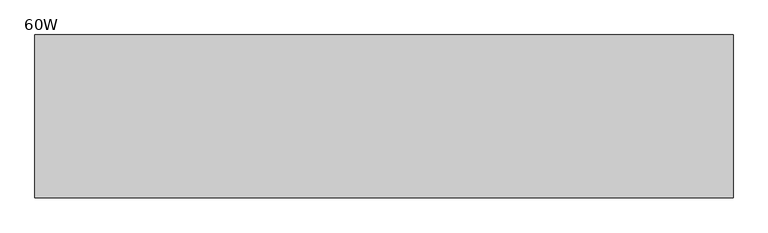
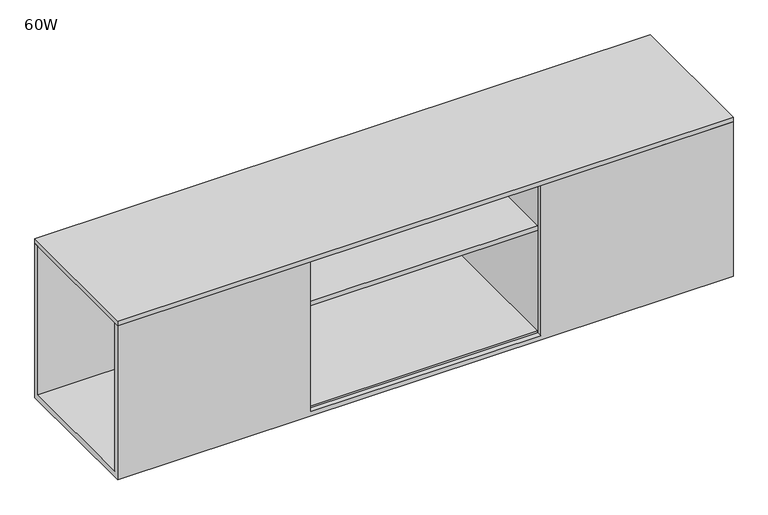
"""IFC4 building model written with IfcOpenShell, lengths in millimetres: furniture geometry, Steelcase Turnstone - Bivi - Storage - Trunk : 60W."""

from ifc_helpers import new_model, si_unit, frame, origin, place, context, project, spatial, polyline, circle_curve, outline, extrude, source, transform, mapped, element, save
from ifc_brep_helpers import plane_surface, revolved_surface, advanced_brep


def furniture_60w_d8397edf(model_context):
    return source(origin(), model_context, "Body", "SolidModel", [
        extrude(outline(polyline([(1524.0, 2.4129826), (1524.0, -353.1870174), (0.0, -353.1870174), (0.0, 2.4129826), (1524.0, 2.4129826)])), frame((0.0, 0.0, 710.1957493), z_axis=(0.0, 0.0, 1.0), x_axis=(1.0, 0.0, 0.0)), (0.0, 0.0, 1.0), 12.190317),
        extrude(outline(polyline([(476.3715042, -13.081), (1047.75, -13.081), (1047.75, -340.1059845), (476.3715042, -340.1059845), (476.3715042, -13.081)])), frame((0.0, 0.0, 585.109162), z_axis=(0.0, 0.0, 1.0), x_axis=(1.0, 0.0, 0.0)), (0.0, 0.0, 1.0), 11.4807673),
        extrude(outline(polyline([(476.3715042, -13.081), (476.3715042, -340.1059845), (452.5217972, -340.1059845), (452.5217972, -13.081), (476.3715042, -13.081)])), frame((0.0, 0.0, 317.5), z_axis=(0.0, 0.0, 1.0), x_axis=(1.0, 0.0, 0.0)), (0.0, 0.0, 1.0), 393.3189671),
        extrude(outline(polyline([(1071.599707, -13.081), (1071.599707, -340.1059845), (1047.75, -340.1059845), (1047.75, -13.081), (1071.599707, -13.081)])), frame((0.0, 0.0, 317.5), z_axis=(0.0, 0.0, 1.0), x_axis=(1.0, 0.0, 0.0)), (0.0, 0.0, 1.0), 393.3189671),
        advanced_brep(
        [(1524.0, 2.4129826, 710.8189671), (0.0, 2.4129826, 710.8189671), (0.0, -10.7950174, 710.8189671), (1524.0, -10.7950174, 710.8189671), (0.0, -353.1870174, 710.8189671), (476.3715042, -353.1870174, 710.8189671), (476.3715042, -340.1059845, 710.8189671), (0.0, -340.1059845, 710.8189671), (1047.75, -353.1870174, 710.8189671), (1524.0, -353.1870174, 710.8189671), (1524.0, -340.1059845, 710.8189671), (1047.75, -340.1059845, 710.8189671), (1524.0, 2.4129826, 306.4508803), (1524.0, -353.1870174, 306.4508803), (0.0, -353.1870174, 306.4508803), (0.0, 2.4129826, 306.4508803), (741.6414208, 2.4129826, 647.2628104), (782.4459185, 2.4129826, 647.2628104), (0.0, -340.1059845, 321.552397), (0.0, -10.7950174, 321.552397), (1047.75, -353.1870174, 317.5), (476.3715042, -353.1870174, 317.5), (1524.0, -10.7950174, 321.552397), (1524.0, -340.1059845, 321.552397), (476.3715042, -340.1059845, 317.5), (1047.75, -340.1059845, 317.5), (1047.75, -340.1059845, 321.552397), (476.3715042, -340.1059845, 321.552397), (741.6414208, -10.7950174, 647.2628104), (782.4459185, -10.7950174, 647.2628104)],
        [
            (0, 1),
            (1, 2),
            (2, 3),
            (3, 0),
            (4, 5),
            (5, 6),
            (6, 7),
            (7, 4),
            (8, 9),
            (9, 10),
            (10, 11),
            (11, 8),
            (12, 13),
            (13, 14),
            (14, 15),
            (15, 12),
            (0, 12),
            (15, 1),
            (16, 17, circle_curve(frame((762.0436697, 2.4129826, 647.2628104), z_axis=(0.0, -1.0, 0.0), x_axis=(1.0, 0.0, 0.0)), 20.4022489)),
            (17, 16, circle_curve(frame((762.0436697, 2.4129826, 647.2628104), z_axis=(0.0, -1.0, 0.0), x_axis=(1.0, 0.0, 0.0)), 20.4022489)),
            (14, 4),
            (7, 18),
            (18, 19),
            (19, 2),
            (13, 9),
            (8, 20),
            (20, 21),
            (21, 5),
            (3, 22),
            (22, 23),
            (23, 10),
            (24, 25),
            (25, 26),
            (26, 27),
            (27, 24),
            (21, 24),
            (27, 6),
            (20, 25),
            (11, 26),
            (16, 28),
            (28, 29, circle_curve(frame((762.0436697, -10.7950174, 647.2628104), z_axis=(0.0, -1.0, 0.0), x_axis=(1.0, 0.0, 0.0)), 20.4022489)),
            (29, 17),
            (29, 28, circle_curve(frame((762.0436697, -10.7950174, 647.2628104), z_axis=(0.0, -1.0, 0.0), x_axis=(1.0, 0.0, 0.0)), 20.4022489)),
            (27, 18),
            (23, 26),
            (22, 19),
        ],
        [
            plane_surface(frame((0.0, 2.4129826, 710.8189671), z_axis=(0.0, 0.0, 1.0), x_axis=(-1.0, 0.0, 0.0))),
            plane_surface(frame((0.0, 2.4129826, 306.4508803), z_axis=(0.0, 0.0, -1.0), x_axis=(1.0, 0.0, 0.0))),
            plane_surface(frame((1524.0, 2.4129826, 710.8189671), z_axis=(0.0, 1.0, 0.0), x_axis=(0.0, 0.0, -1.0))),
            plane_surface(frame((0.0, 2.4129826, 710.8189671), z_axis=(-1.0, 0.0, 0.0), x_axis=(0.0, 0.0, -1.0))),
            plane_surface(frame((0.0, -353.1870174, 710.8189671), z_axis=(0.0, -1.0, 0.0), x_axis=(0.0, 0.0, -1.0))),
            plane_surface(frame((1524.0, -353.1870174, 710.8189671), z_axis=(1.0, 0.0, 0.0), x_axis=(0.0, 0.0, -1.0))),
            plane_surface(frame((476.3715042, -340.1059845, 710.8189671), z_axis=(0.0, -1.0, 0.0), x_axis=(1.0, 0.0, 0.0))),
            plane_surface(frame((476.3715042, -353.1870174, 710.8189671), z_axis=(1.0, 0.0, 0.0), x_axis=(0.0, 1.0, 0.0))),
            plane_surface(frame((476.3715042, -353.1870174, 317.5), z_axis=(0.0, 0.0, 1.0), x_axis=(0.0, 1.0, 0.0))),
            plane_surface(frame((1047.75, -353.1870174, 317.5), z_axis=(-1.0, 0.0, 0.0), x_axis=(0.0, 1.0, 0.0))),
            revolved_surface(polyline([(782.4459186, -10.7950174, 647.2628104), (782.4459186, 2.4129826, 647.2628104)]), (762.0436697, 2.4129826, 647.2628104), (0.0, -1.0, 0.0)),
            plane_surface(frame((1524.0, -340.1059845, 710.8189671), z_axis=(0.0, 1.0, 0.0), x_axis=(-1.0, 0.0, 0.0))),
            plane_surface(frame((1524.0, -340.1059845, 321.552397), z_axis=(0.0, 0.0, 1.0), x_axis=(-1.0, 0.0, 0.0))),
            plane_surface(frame((1524.0, -10.7950174, 321.552397), z_axis=(0.0, -1.0, 0.0), x_axis=(-1.0, 0.0, 0.0))),
        ],
        [
            (0, [[1, 2, 3, 4]]),
            (0, [[5, 6, 7, 8]]),
            (0, [[9, 10, 11, 12]]),
            (1, [[13, 14, 15, 16]]),
            (2, [[-1, 17, -16, 18], [19, 20]]),
            (3, [[-15, 21, -8, 22, 23, 24, -2, -18]]),
            (4, [[-14, 25, -9, 26, 27, 28, -5, -21]]),
            (5, [[-13, -17, -4, 29, 30, 31, -10, -25]]),
            (6, [[32, 33, 34, 35]]),
            (7, [[36, -35, 37, -6, -28]]),
            (8, [[-32, -36, -27, 38]]),
            (9, [[-38, -26, -12, 39, -33]]),
            (10, [[-19, 40, 41, 42]]),
            (10, [[-20, -42, 43, -40]]),
            (11, [[44, -22, -7, -37]]),
            (11, [[45, -39, -11, -31]]),
            (12, [[46, -23, -44, -34, -45, -30]]),
            (13, [[-46, -29, -3, -24], [-41, -43]]),
        ],
    ),
    ])


if __name__ == "__main__":
    model = new_model("IFC4")
    model_context = context("Model", 3, world=origin())
    ifc_project = project(units=[si_unit("LENGTHUNIT", "METRE", prefix="MILLI")], contexts=[model_context])
    site = spatial("IfcSite", under=ifc_project)
    building = spatial("IfcBuilding", under=site)
    placement = place(None, origin())
    furniture_60w_shape = furniture_60w_d8397edf(model_context)
    element("IfcFurniture", 1, ObjectType="Steelcase Turnstone - Bivi - Storage - Trunk : 60W", at=placement, inside=building, context=model_context, shape_type="MappedRepresentation", body=[
        mapped(furniture_60w_shape, transform((0.0, 0.0, 0.0), x_axis=(1.0, 0.0, 0.0), y_axis=(0.0, 1.0, 0.0), z_axis=(0.0, 0.0, 1.0))),
    ])
    save(model, "model.ifc")
